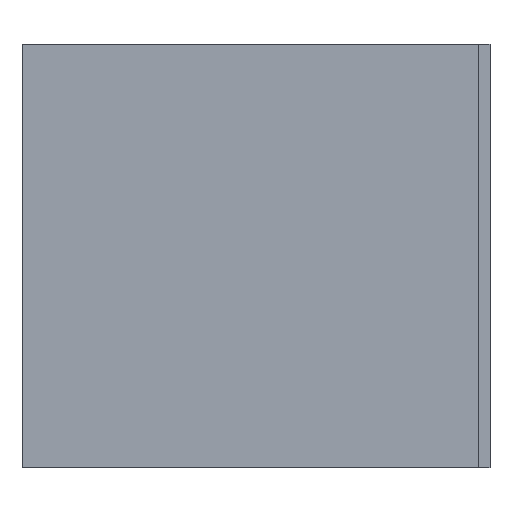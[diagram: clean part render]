
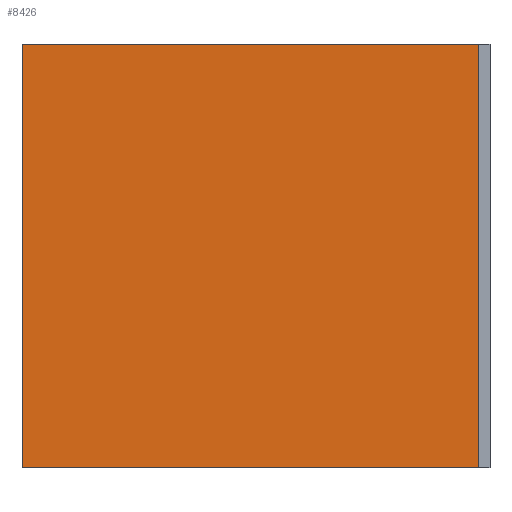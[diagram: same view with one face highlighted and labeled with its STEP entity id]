
A CAD part, left-side view. The second image highlights one B-rep face of the part: STEP entity #8426.
In plain terms, the highlighted planar face has unit normal (-1, 0, 0).
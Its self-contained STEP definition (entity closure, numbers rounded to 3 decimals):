
#42 = VERTEX_POINT ( 'NONE', #5021 ) ;
#705 = VECTOR ( 'NONE', #3887, 1000. ) ;
#884 = DIRECTION ( 'NONE',  ( 0., 0., 1. ) ) ;
#893 = VERTEX_POINT ( 'NONE', #15452 ) ;
#2476 = CARTESIAN_POINT ( 'NONE',  ( 0., -24.25, 22.5 ) ) ;
#3191 = FACE_OUTER_BOUND ( 'NONE', #6535, .T. ) ;
#3262 = CARTESIAN_POINT ( 'NONE',  ( 0., 24.25, -22.5 ) ) ;
#3887 = DIRECTION ( 'NONE',  ( 0., 0., -1. ) ) ;
#3909 = CARTESIAN_POINT ( 'NONE',  ( 0., -24.25, -22.5 ) ) ;
#4316 = VECTOR ( 'NONE', #884, 1000. ) ;
#4363 = ORIENTED_EDGE ( 'NONE', *, *, #11010, .F. ) ;
#4381 = ORIENTED_EDGE ( 'NONE', *, *, #12959, .F. ) ;
#4418 = ORIENTED_EDGE ( 'NONE', *, *, #12992, .F. ) ;
#4431 = ORIENTED_EDGE ( 'NONE', *, *, #14293, .F. ) ;
#5021 = CARTESIAN_POINT ( 'NONE',  ( 0., -24.25, -22.5 ) ) ;
#5673 = VERTEX_POINT ( 'NONE', #3262 ) ;
#6535 = EDGE_LOOP ( 'NONE', ( #4431, #4418, #4381, #4363 ) ) ;
#7577 = CARTESIAN_POINT ( 'NONE',  ( 0., 24.25, 22.5 ) ) ;
#8426 = ADVANCED_FACE ( 'NONE', ( #3191 ), #17066, .T. ) ;
#9136 = LINE ( 'NONE', #7577, #16786 ) ;
#9171 = DIRECTION ( 'NONE',  ( 0., -1., 0. ) ) ;
#11010 = EDGE_CURVE ( 'NONE', #893, #42, #12623, .T. ) ;
#11583 = CARTESIAN_POINT ( 'NONE',  ( 0., 24.25, -22.5 ) ) ;
#12623 = LINE ( 'NONE', #3909, #705 ) ;
#12673 = VECTOR ( 'NONE', #13177, 1000. ) ;
#12959 = EDGE_CURVE ( 'NONE', #42, #5673, #13153, .T. ) ;
#12992 = EDGE_CURVE ( 'NONE', #5673, #14399, #16596, .T. ) ;
#13153 = LINE ( 'NONE', #11583, #12673 ) ;
#13177 = DIRECTION ( 'NONE',  ( 0., 1., 0. ) ) ;
#14293 = EDGE_CURVE ( 'NONE', #14399, #893, #9136, .T. ) ;
#14399 = VERTEX_POINT ( 'NONE', #18278 ) ;
#15220 = DIRECTION ( 'NONE',  ( 0., 0., -1. ) ) ;
#15440 = DIRECTION ( 'NONE',  ( -1., 0., 0. ) ) ;
#15452 = CARTESIAN_POINT ( 'NONE',  ( 0., -24.25, 22.5 ) ) ;
#16596 = LINE ( 'NONE', #18997, #4316 ) ;
#16786 = VECTOR ( 'NONE', #9171, 1000. ) ;
#17066 = PLANE ( 'NONE',  #17746 ) ;
#17746 = AXIS2_PLACEMENT_3D ( 'NONE', #2476, #15440, #15220 ) ;
#18278 = CARTESIAN_POINT ( 'NONE',  ( 0., 24.25, 22.5 ) ) ;
#18997 = CARTESIAN_POINT ( 'NONE',  ( 0., 24.25, -22.5 ) ) ;
